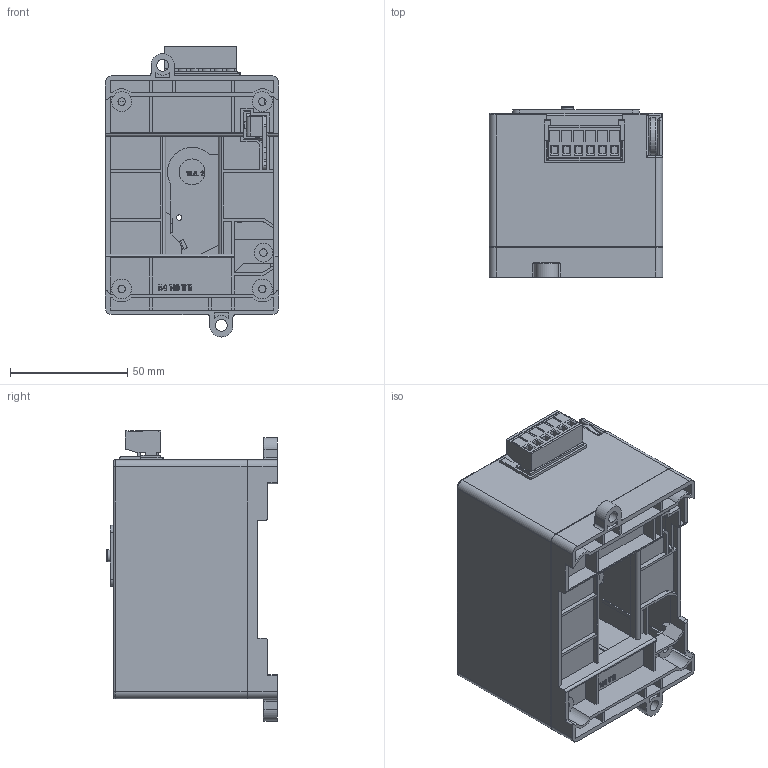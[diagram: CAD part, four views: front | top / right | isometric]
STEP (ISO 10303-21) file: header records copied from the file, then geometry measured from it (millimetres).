
FILE_DESCRIPTION(/* description */ (''),/* implementation_level */ '2;1');
FILE_NAME(/* name */ 'MOT10GM_3D DATA.stp',/* time_stamp */ '2017-12-26T17:14:48+09:00',/* author */ (''),/* organization */ (''),/* preprocessor_version */ 'ST-DEVELOPER v15',/* originating_system */ 'SIEMENS PLM Software NX 9.0',/* authorisation */ '');
FILE_SCHEMA (('AP203_CONFIGURATION_CONTROLLED_3D_DESIGN_OF_MECHANICAL_PARTS_AND_ASSEMBLIES_MIM_LF { 1 0 10303 403 2 1 2}'));
Products named in the file (10): 10GM__WL8.310.234_id171_x_t; _____id161_x_t; 6__________5.08_id156_x_t; 6__________5.08_id151_x_t; WL8.310.233.CD2B-63GM____-ABS______ _2__id146_x_t; WL8.261.123.CD8-63____-POM_id141_x_t; WL8.253.070 HY____-ABS_id127_x_t; 10GM____WL8.024.541_id11_x_t; 63_____WL8.235.363__id6_x_t; CD2B-10GM_x_t
Assembly tree (9 placements, depth 2):
  CD2B-10GM_x_t
    63_____WL8.235.363__id6_x_t
    10GM____WL8.024.541_id11_x_t
    WL8.253.070 HY____-ABS_id127_x_t
    WL8.261.123.CD8-63____-POM_id141_x_t
    WL8.310.233.CD2B-63GM____-ABS______ _2__id146_x_t
    6__________5.08_id151_x_t
    6__________5.08_id156_x_t
    _____id161_x_t
    10GM__WL8.310.234_id171_x_t
Bounding box: 74 x 73 x 123.82 mm (x, y, z)
Volume: 103642.5 mm3; surface area: 119748.1 mm2
Topology: 9 solids, 9 shells, 2240 faces, 6104 edges, 3979 vertices
Faces by surface type: plane 1670, cylinder 307, extrusion 189, torus 31, cone 31, bspline 10, sphere 2
Full cylindrical faces by diameter (mm): 1.9 x2, 2.1 x4, 2.3 x1, 2.8 x6, 3.2 x10, 3.7 x6, 4 x3, 5 x3, 5.2 x1, 5.8 x1, 7 x1, 8 x5, 8.5 x1, 11 x1, 14 x1
Entity records: 80538 total; most frequent: CARTESIAN_POINT 23379, ORIENTED_EDGE 12018, DIRECTION 10595, EDGE_CURVE 6009, VECTOR 5069, LINE 4880, VERTEX_POINT 3960, AXIS2_PLACEMENT_3D 2763
